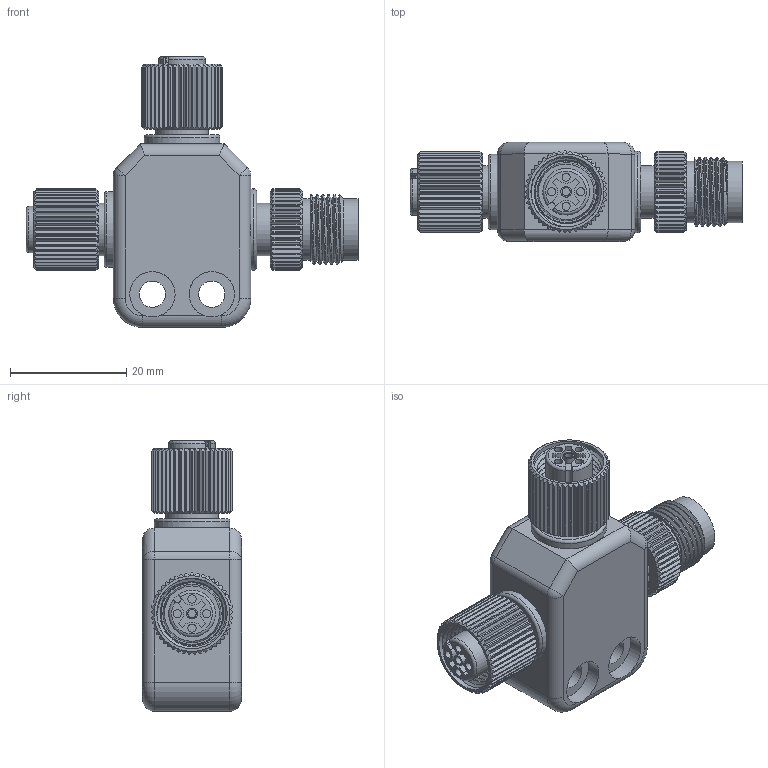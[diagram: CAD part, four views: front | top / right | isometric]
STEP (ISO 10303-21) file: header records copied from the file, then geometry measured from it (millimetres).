
FILE_DESCRIPTION (( 'STEP AP203' ), '1' );
FILE_NAME ('CM02-8D2TA5-CF(R1).STEP', '2022-04-11T09:30:43', ( '' ), ( '' ), 'SwSTEP 2.0', 'SolidWorks 2018', '' );
FILE_SCHEMA (( 'CONFIG_CONTROL_DESIGN' ));
Length unit declared in the file: millimetre
Products named in the file (1): CM02-8D2TA5-CF(R1)
Bounding box: 57 x 17 x 46.5 mm (x, y, z)
Volume: 15617.5 mm3; surface area: 8383.7 mm2
Topology: 1 solids, 1 shells, 617 faces, 1718 edges, 1125 vertices
Faces by surface type: plane 366, cylinder 212, cone 12, sphere 9, torus 9, bspline 9
Full cylindrical faces by diameter (mm): 1 x5, 1.4 x10, 1.85 x3, 4.5 x2, 7.8 x4, 8.2 x1, 9 x3, 10.6 x4, 12.1 x4, 13 x2, 14 x1
Entity records: 23781 total; most frequent: CARTESIAN_POINT 9169, ORIENTED_EDGE 3240, DIRECTION 2695, EDGE_CURVE 1620, VERTEX_POINT 1093, AXIS2_PLACEMENT_3D 1053, EDGE_LOOP 707, FACE_OUTER_BOUND 658
